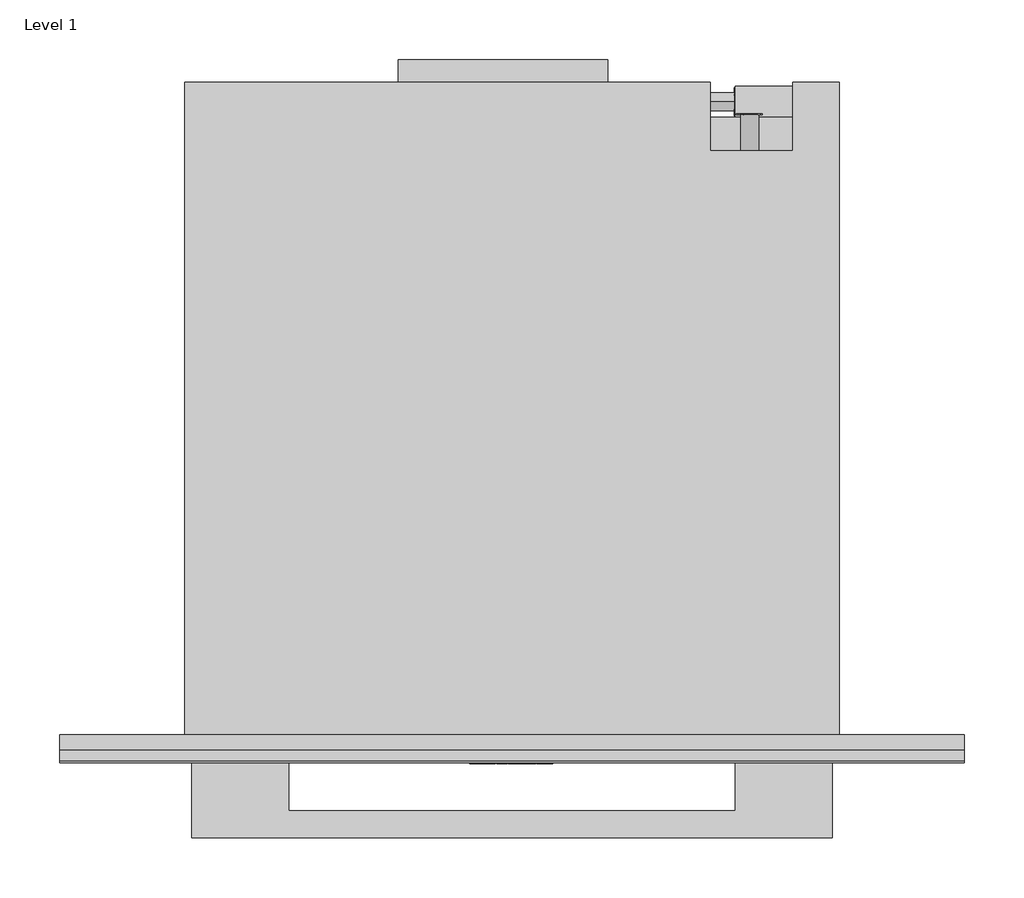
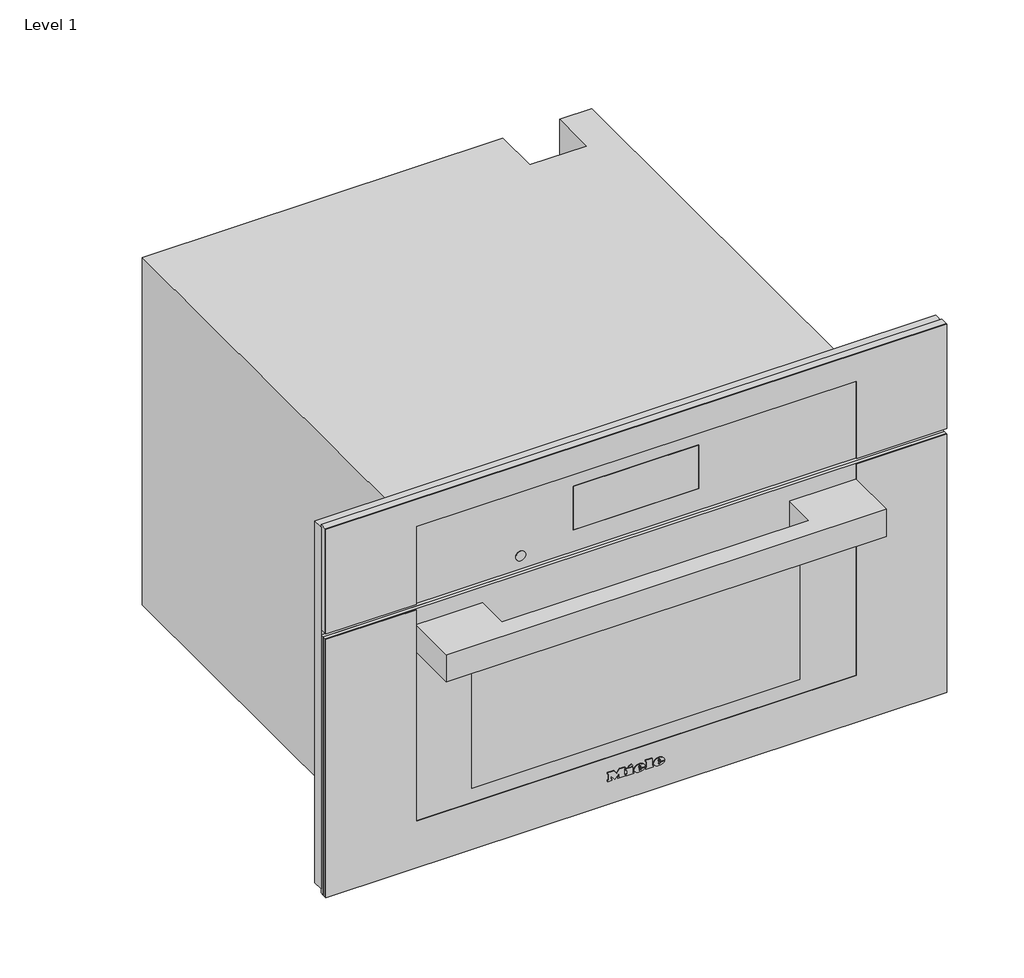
# One storey: 1 proxy.
"""IFC4 building model written with IfcOpenShell, lengths in millimetres."""

from ifc_helpers import new_model, si_unit, origin, place, context, project, spatial, transform, mapped, element, save
from components import specialty_equipment_04b4d9b1

model = new_model("IFC4")

# Units and contexts
model_context = context("Model", 3, world=origin())
ifc_project = project(units=[si_unit("LENGTHUNIT", "METRE", prefix="MILLI")], contexts=[model_context])

# Site, building, storey
site = spatial("IfcSite", under=ifc_project)
building = spatial("IfcBuilding", under=site)
storey = spatial("IfcBuildingStorey", under=building, Name="Level 1", Elevation=0.0)

# Proxy
placement = place(None, origin())
specialty_equipment_shape = specialty_equipment_04b4d9b1(model_context)
element("IfcBuildingElementProxy", 1, Name="11875760_USA_DGC7775_EDST-CLST : 23777542_USA_11875760_DGC7775_EDST-CLST", ObjectType="11875760_USA_DGC7775_EDST-CLST : 23777542_USA_11875760_DGC7775_EDST-CLST", at=placement, inside=storey, context=model_context, shape_type="MappedRepresentation", body=[
    mapped(specialty_equipment_shape, transform((0.0, 0.0, 0.0), x_axis=(1.0, 0.0, 0.0), y_axis=(0.0, 1.0, 0.0), z_axis=(0.0, 0.0, 1.0))),
])

save(model, "model.ifc")
